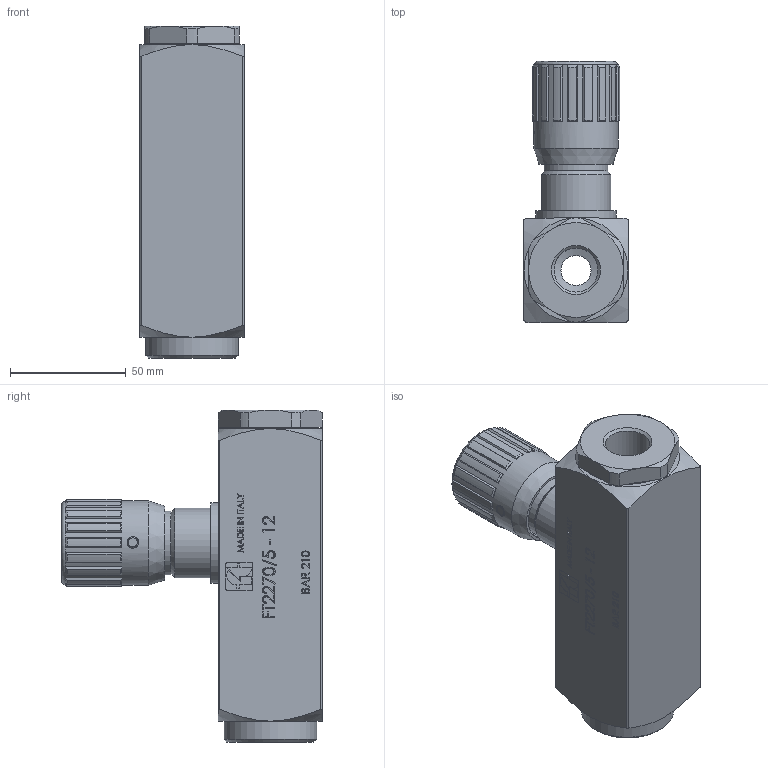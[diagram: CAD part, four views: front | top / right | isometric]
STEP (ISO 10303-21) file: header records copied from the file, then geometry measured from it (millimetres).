
FILE_DESCRIPTION (( 'STEP AP214' ), '1' );
FILE_NAME ('FT2270_5-12.STEP', '2015-03-31T15:02:37', ( 'cperuzzotti' ), ( 'Hewlett-Packard Company' ), 'SwSTEP 2.0', 'SolidWorks 2014', '' );
FILE_SCHEMA (( 'AUTOMOTIVE_DESIGN' ));
Length unit declared in the file: millimetre
Products named in the file (1): FT2270_5-12
Bounding box: 45 x 112.75 x 143.5 mm (x, y, z)
Surface area: 44785.9 mm2 (no closed solid volume)
Topology: 0 solids, 14 shells, 500 faces, 1979 edges, 1409 vertices
Faces by surface type: plane 321, cone 61, cylinder 61, bspline 56, torus 1
Full cylindrical faces by diameter (mm): 1.96 x1, 5 x1, 19 x1, 20 x1, 26.7 x1, 27.6 x1, 30 x1, 31 x1, 35 x1, 36.5 x1, 40 x1, 41 x1
Entity records: 30885 total; most frequent: CARTESIAN_POINT 9929, ORIENTED_EDGE 3021, DIRECTION 2784, EDGE_CURVE 1952, VERTEX_POINT 1404, VECTOR 1398, LINE 1398, AXIS2_PLACEMENT_3D 693
